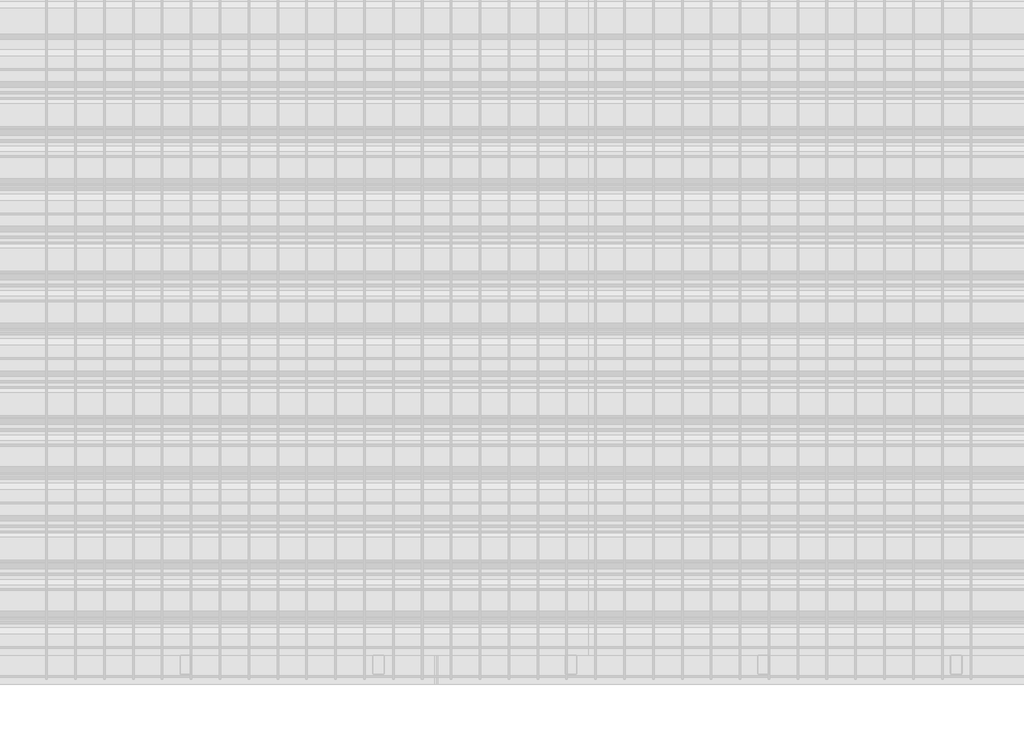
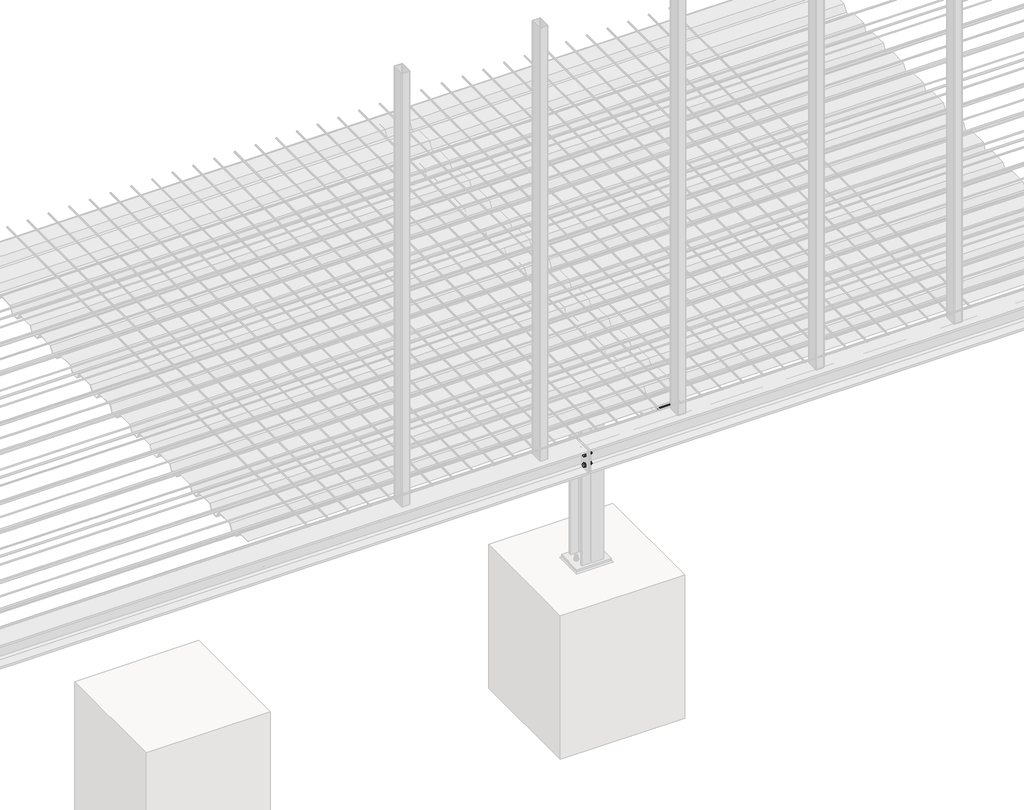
# One storey, part 12 of 36: 11 proxies.
"""IFC4 building model written with IfcOpenShell, lengths in millimetres."""

from ifc_helpers import new_model, si_unit, point, frame, frame_2d, origin, place, context, project, spatial, polyline, circle_curve, trimmed, segment, composite_curve, outline, extrude, element, save

model = new_model("IFC4")

# Units and contexts
model_context = context("Model", 3, world=origin())
ifc_project = project(units=[si_unit("LENGTHUNIT", "METRE", prefix="MILLI")], contexts=[model_context])

# Site, building, storey
site = spatial("IfcSite", under=ifc_project)
building = spatial("IfcBuilding", under=site)
storey = spatial("IfcBuildingStorey", under=building, Name="Základy", Elevation=-1200.0)

# Proxies
placement = place(None, origin())
element("IfcBuildingElementProxy", 1, Name="PLECH", ObjectType="PLECH", at=placement, inside=storey, context=model_context, shape_type="SweptSolid", body=[
    extrude(outline(polyline([(8940.0, 1200.0), (8940.0, 1320.0), (8950.0, 1320.0), (8950.0, 1200.0), (8940.0, 1200.0)])), frame((0.0, 0.0, -299.0), z_axis=(0.0, 0.0, 1.0), x_axis=(1.0, 0.0, 0.0)), (0.0, 0.0, 1.0), 98.0),
])
element("IfcBuildingElementProxy", 2, Name="PLECH", ObjectType="PLECH", at=placement, inside=storey, context=model_context, shape_type="SweptSolid", body=[
    extrude(outline(polyline([(9150.0, 1200.0), (9150.0, 1320.0), (9160.0, 1320.0), (9160.0, 1200.0), (9150.0, 1200.0)])), frame((0.0, 0.0, -299.0), z_axis=(0.0, 0.0, 1.0), x_axis=(1.0, 0.0, 0.0)), (0.0, 0.0, 1.0), 98.0),
])
element("IfcBuildingElementProxy", 3, Name="PLECH", ObjectType="PLECH", at=placement, inside=storey, context=model_context, shape_type="SweptSolid", body=[
    extrude(outline(polyline([(8950.0, 1200.0), (8950.0, 1320.0), (8960.0, 1320.0), (8960.0, 1200.0), (8950.0, 1200.0)])), frame((0.0, 0.0, -332.0), z_axis=(0.0, 0.0, 1.0), x_axis=(1.0, 0.0, 0.0)), (0.0, 0.0, 1.0), 164.0),
])
element("IfcBuildingElementProxy", 4, Name="PLECH", ObjectType="PLECH", at=placement, inside=storey, context=model_context, shape_type="SweptSolid", body=[
    extrude(outline(polyline([(9140.0, 1200.0), (9140.0, 1320.0), (9150.0, 1320.0), (9150.0, 1200.0), (9140.0, 1200.0)])), frame((0.0, 0.0, -332.0), z_axis=(0.0, 0.0, 1.0), x_axis=(1.0, 0.0, 0.0)), (0.0, 0.0, 1.0), 164.0),
])
element("IfcBuildingElementProxy", 5, Name="PLECH", ObjectType="PLECH", at=placement, inside=storey, context=model_context, shape_type="SweptSolid", body=[
    extrude(outline(composite_curve([segment(polyline([(-174.0, 9140.0), (-174.0, 9079.5)]), True, "CONTINUOUS"), segment(trimmed(circle_curve(frame_2d((-174.0, 9054.5)), 25.0), [point((-174.0, 9079.5))], [point((-199.0, 9054.5))], True, "CARTESIAN"), True, "CONTINUOUS"), segment(polyline([(-199.0, 9054.5), (-301.0, 9054.5)]), True, "CONTINUOUS"), segment(trimmed(circle_curve(frame_2d((-326.0, 9054.5)), 25.0), [point((-301.0, 9054.5))], [point((-326.0, 9079.5))], True, "CARTESIAN"), True, "CONTINUOUS"), segment(polyline([(-326.0, 9079.5), (-326.0, 9140.0), (-174.0, 9140.0)]), True, "CONTINUOUS")], self_intersect=False)), frame((0.0, 1256.0, 0.0), z_axis=(0.0, 1.0, 0.0), x_axis=(0.0, 0.0, 1.0)), (0.0, 0.0, 1.0), 8.0),
])
element("IfcBuildingElementProxy", 6, Name="PLECH", ObjectType="PLECH", at=placement, inside=storey, context=model_context, shape_type="SweptSolid", body=[
    extrude(outline(polyline([(8960.0, 210.0), (9140.0, 210.0), (9140.0, 200.0), (8960.0, 200.0), (8960.0, 210.0)])), frame((0.0, 0.0, -332.0), z_axis=(0.0, 0.0, 1.0), x_axis=(1.0, 0.0, 0.0)), (0.0, 0.0, 1.0), 164.0),
])
element("IfcBuildingElementProxy", 7, Name="PLECH", ObjectType="PLECH", at=placement, inside=storey, context=model_context, shape_type="SweptSolid", body=[
    extrude(outline(composite_curve([segment(polyline([(190.0, -174.0), (190.0, -326.0), (124.25, -326.0)]), True, "CONTINUOUS"), segment(trimmed(circle_curve(frame_2d((104.25, -326.0)), 20.0), [point((124.25, -326.0))], [point((104.25, -306.0))], True, "CARTESIAN"), True, "CONTINUOUS"), segment(polyline([(104.25, -306.0), (104.25, -194.0)]), True, "CONTINUOUS"), segment(trimmed(circle_curve(frame_2d((104.25, -174.0)), 20.0), [point((104.25, -194.0))], [point((124.25, -174.0))], True, "CARTESIAN"), True, "CONTINUOUS"), segment(polyline([(124.25, -174.0), (190.0, -174.0)]), True, "CONTINUOUS")], self_intersect=False)), frame((9046.0, 0.0, 0.0), z_axis=(1.0, 0.0, 0.0), x_axis=(0.0, 1.0, 0.0)), (0.0, 0.0, 1.0), 8.0),
])
element("IfcBuildingElementProxy", 8, Name="PLECH", ObjectType="PLECH", at=placement, inside=storey, context=model_context, shape_type="SweptSolid", body=[
    extrude(outline(polyline([(8960.0, 200.0), (9140.0, 200.0), (9140.0, 190.0), (8960.0, 190.0), (8960.0, 200.0)])), frame((0.0, 0.0, -332.0), z_axis=(0.0, 0.0, 1.0), x_axis=(1.0, 0.0, 0.0)), (0.0, 0.0, 1.0), 164.0),
])
element("IfcBuildingElementProxy", 9, Name="Bolt assembly", ObjectType="Bolt assembly", at=placement, inside=storey, context=model_context, shape_type="SweptSolid", body=[
    extrude(outline(composite_curve([segment(trimmed(circle_curve(frame_2d((1230.0, -225.0)), 6.5), [point((1230.0, -231.5))], [point((1230.0, -218.5))], False, "CARTESIAN"), True, "CONTINUOUS"), segment(trimmed(circle_curve(frame_2d((1230.0, -225.0)), 6.5), [point((1230.0, -218.5))], [point((1230.0, -231.5))], False, "CARTESIAN"), True, "CONTINUOUS")], self_intersect=False)), frame((8949.9, 0.0, 0.0), z_axis=(1.0, 0.0, 0.0), x_axis=(0.0, 1.0, 0.0)), (0.0, 0.0, 1.0), 10.0),
    extrude(outline(polyline([(1230.0, -235.3923048), (1221.0, -230.1961524), (1221.0, -219.8038476), (1230.0, -214.6076952), (1239.0, -219.8038476), (1239.0, -230.1961524), (1230.0, -235.3923048)])), frame((8962.5, 0.0, 0.0), z_axis=(1.0, 0.0, 0.0), x_axis=(0.0, 1.0, 0.0)), (0.0, 0.0, 1.0), 7.5),
    extrude(outline(composite_curve([segment(trimmed(circle_curve(frame_2d((1230.0, -225.0)), 6.0), [point((1230.0, -231.0))], [point((1230.0, -219.0))], False, "CARTESIAN"), True, "CONTINUOUS"), segment(trimmed(circle_curve(frame_2d((1230.0, -225.0)), 6.0), [point((1230.0, -219.0))], [point((1230.0, -231.0))], False, "CARTESIAN"), True, "CONTINUOUS")], self_intersect=False)), frame((8922.5, 0.0, 0.0), z_axis=(1.0, 0.0, 0.0), x_axis=(0.0, 1.0, 0.0)), (0.0, 0.0, 1.0), 40.0),
    extrude(outline(composite_curve([segment(trimmed(circle_curve(frame_2d((1230.0, -225.0)), 12.0), [point((1230.0, -237.0))], [point((1230.0, -213.0))], False, "CARTESIAN"), True, "CONTINUOUS"), segment(trimmed(circle_curve(frame_2d((1230.0, -225.0)), 12.0), [point((1230.0, -213.0))], [point((1230.0, -237.0))], False, "CARTESIAN"), True, "CONTINUOUS")], self_intersect=False)), frame((8960.0, 0.0, 0.0), z_axis=(1.0, 0.0, 0.0), x_axis=(0.0, 1.0, 0.0)), (0.0, 0.0, 1.0), 2.5),
    extrude(outline(composite_curve([segment(trimmed(circle_curve(frame_2d((1230.0, -225.0)), 12.0), [point((1230.0, -237.0))], [point((1230.0, -213.0))], False, "CARTESIAN"), True, "CONTINUOUS"), segment(trimmed(circle_curve(frame_2d((1230.0, -225.0)), 12.0), [point((1230.0, -213.0))], [point((1230.0, -237.0))], False, "CARTESIAN"), True, "CONTINUOUS")], self_intersect=False)), frame((8937.5, 0.0, 0.0), z_axis=(1.0, 0.0, 0.0), x_axis=(0.0, 1.0, 0.0)), (0.0, 0.0, 1.0), 2.5),
    extrude(outline(polyline([(1230.0, -235.9696551), (1220.5, -230.4848276), (1220.5, -219.5151724), (1230.0, -214.0303449), (1239.5, -219.5151724), (1239.5, -230.4848276), (1230.0, -235.9696551)])), frame((8927.5, 0.0, 0.0), z_axis=(1.0, 0.0, 0.0), x_axis=(0.0, 1.0, 0.0)), (0.0, 0.0, 1.0), 10.0),
    extrude(outline(composite_curve([segment(trimmed(circle_curve(frame_2d((1230.0, -225.0)), 6.5), [point((1230.0, -231.5))], [point((1230.0, -218.5))], False, "CARTESIAN"), True, "CONTINUOUS"), segment(trimmed(circle_curve(frame_2d((1230.0, -225.0)), 6.5), [point((1230.0, -218.5))], [point((1230.0, -231.5))], False, "CARTESIAN"), True, "CONTINUOUS")], self_intersect=False)), frame((8940.0, 0.0, 0.0), z_axis=(1.0, 0.0, 0.0), x_axis=(0.0, 1.0, 0.0)), (0.0, 0.0, 1.0), 10.1),
    extrude(outline(composite_curve([segment(trimmed(circle_curve(frame_2d((1230.0, -275.0)), 6.5), [point((1230.0, -281.5))], [point((1230.0, -268.5))], False, "CARTESIAN"), True, "CONTINUOUS"), segment(trimmed(circle_curve(frame_2d((1230.0, -275.0)), 6.5), [point((1230.0, -268.5))], [point((1230.0, -281.5))], False, "CARTESIAN"), True, "CONTINUOUS")], self_intersect=False)), frame((8949.9, 0.0, 0.0), z_axis=(1.0, 0.0, 0.0), x_axis=(0.0, 1.0, 0.0)), (0.0, 0.0, 1.0), 10.0),
    extrude(outline(polyline([(1230.0, -285.3923048), (1221.0, -280.1961524), (1221.0, -269.8038476), (1230.0, -264.6076952), (1239.0, -269.8038476), (1239.0, -280.1961524), (1230.0, -285.3923048)])), frame((8962.5, 0.0, 0.0), z_axis=(1.0, 0.0, 0.0), x_axis=(0.0, 1.0, 0.0)), (0.0, 0.0, 1.0), 7.5),
    extrude(outline(composite_curve([segment(trimmed(circle_curve(frame_2d((1230.0, -275.0)), 6.0), [point((1230.0, -281.0))], [point((1230.0, -269.0))], False, "CARTESIAN"), True, "CONTINUOUS"), segment(trimmed(circle_curve(frame_2d((1230.0, -275.0)), 6.0), [point((1230.0, -269.0))], [point((1230.0, -281.0))], False, "CARTESIAN"), True, "CONTINUOUS")], self_intersect=False)), frame((8922.5, 0.0, 0.0), z_axis=(1.0, 0.0, 0.0), x_axis=(0.0, 1.0, 0.0)), (0.0, 0.0, 1.0), 40.0),
    extrude(outline(composite_curve([segment(trimmed(circle_curve(frame_2d((1230.0, -275.0)), 12.0), [point((1230.0, -287.0))], [point((1230.0, -263.0))], False, "CARTESIAN"), True, "CONTINUOUS"), segment(trimmed(circle_curve(frame_2d((1230.0, -275.0)), 12.0), [point((1230.0, -263.0))], [point((1230.0, -287.0))], False, "CARTESIAN"), True, "CONTINUOUS")], self_intersect=False)), frame((8960.0, 0.0, 0.0), z_axis=(1.0, 0.0, 0.0), x_axis=(0.0, 1.0, 0.0)), (0.0, 0.0, 1.0), 2.5),
    extrude(outline(composite_curve([segment(trimmed(circle_curve(frame_2d((1230.0, -275.0)), 12.0), [point((1230.0, -287.0))], [point((1230.0, -263.0))], False, "CARTESIAN"), True, "CONTINUOUS"), segment(trimmed(circle_curve(frame_2d((1230.0, -275.0)), 12.0), [point((1230.0, -263.0))], [point((1230.0, -287.0))], False, "CARTESIAN"), True, "CONTINUOUS")], self_intersect=False)), frame((8937.5, 0.0, 0.0), z_axis=(1.0, 0.0, 0.0), x_axis=(0.0, 1.0, 0.0)), (0.0, 0.0, 1.0), 2.5),
    extrude(outline(polyline([(1230.0, -285.9696551), (1220.5, -280.4848276), (1220.5, -269.5151724), (1230.0, -264.0303449), (1239.5, -269.5151724), (1239.5, -280.4848276), (1230.0, -285.9696551)])), frame((8927.5, 0.0, 0.0), z_axis=(1.0, 0.0, 0.0), x_axis=(0.0, 1.0, 0.0)), (0.0, 0.0, 1.0), 10.0),
    extrude(outline(composite_curve([segment(trimmed(circle_curve(frame_2d((1230.0, -275.0)), 6.5), [point((1230.0, -281.5))], [point((1230.0, -268.5))], False, "CARTESIAN"), True, "CONTINUOUS"), segment(trimmed(circle_curve(frame_2d((1230.0, -275.0)), 6.5), [point((1230.0, -268.5))], [point((1230.0, -281.5))], False, "CARTESIAN"), True, "CONTINUOUS")], self_intersect=False)), frame((8940.0, 0.0, 0.0), z_axis=(1.0, 0.0, 0.0), x_axis=(0.0, 1.0, 0.0)), (0.0, 0.0, 1.0), 10.1),
    extrude(outline(composite_curve([segment(trimmed(circle_curve(frame_2d((1290.0, -225.0)), 6.5), [point((1290.0, -231.5))], [point((1290.0, -218.5))], False, "CARTESIAN"), True, "CONTINUOUS"), segment(trimmed(circle_curve(frame_2d((1290.0, -225.0)), 6.5), [point((1290.0, -218.5))], [point((1290.0, -231.5))], False, "CARTESIAN"), True, "CONTINUOUS")], self_intersect=False)), frame((8949.9, 0.0, 0.0), z_axis=(1.0, 0.0, 0.0), x_axis=(0.0, 1.0, 0.0)), (0.0, 0.0, 1.0), 10.0),
    extrude(outline(polyline([(1290.0, -235.3923048), (1281.0, -230.1961524), (1281.0, -219.8038476), (1290.0, -214.6076952), (1299.0, -219.8038476), (1299.0, -230.1961524), (1290.0, -235.3923048)])), frame((8962.5, 0.0, 0.0), z_axis=(1.0, 0.0, 0.0), x_axis=(0.0, 1.0, 0.0)), (0.0, 0.0, 1.0), 7.5),
    extrude(outline(composite_curve([segment(trimmed(circle_curve(frame_2d((1290.0, -225.0)), 6.0), [point((1290.0, -231.0))], [point((1290.0, -219.0))], False, "CARTESIAN"), True, "CONTINUOUS"), segment(trimmed(circle_curve(frame_2d((1290.0, -225.0)), 6.0), [point((1290.0, -219.0))], [point((1290.0, -231.0))], False, "CARTESIAN"), True, "CONTINUOUS")], self_intersect=False)), frame((8922.5, 0.0, 0.0), z_axis=(1.0, 0.0, 0.0), x_axis=(0.0, 1.0, 0.0)), (0.0, 0.0, 1.0), 40.0),
    extrude(outline(composite_curve([segment(trimmed(circle_curve(frame_2d((1290.0, -225.0)), 12.0), [point((1290.0, -237.0))], [point((1290.0, -213.0))], False, "CARTESIAN"), True, "CONTINUOUS"), segment(trimmed(circle_curve(frame_2d((1290.0, -225.0)), 12.0), [point((1290.0, -213.0))], [point((1290.0, -237.0))], False, "CARTESIAN"), True, "CONTINUOUS")], self_intersect=False)), frame((8960.0, 0.0, 0.0), z_axis=(1.0, 0.0, 0.0), x_axis=(0.0, 1.0, 0.0)), (0.0, 0.0, 1.0), 2.5),
    extrude(outline(composite_curve([segment(trimmed(circle_curve(frame_2d((1290.0, -225.0)), 12.0), [point((1290.0, -237.0))], [point((1290.0, -213.0))], False, "CARTESIAN"), True, "CONTINUOUS"), segment(trimmed(circle_curve(frame_2d((1290.0, -225.0)), 12.0), [point((1290.0, -213.0))], [point((1290.0, -237.0))], False, "CARTESIAN"), True, "CONTINUOUS")], self_intersect=False)), frame((8937.5, 0.0, 0.0), z_axis=(1.0, 0.0, 0.0), x_axis=(0.0, 1.0, 0.0)), (0.0, 0.0, 1.0), 2.5),
    extrude(outline(polyline([(1290.0, -235.9696551), (1280.5, -230.4848276), (1280.5, -219.5151724), (1290.0, -214.0303449), (1299.5, -219.5151724), (1299.5, -230.4848276), (1290.0, -235.9696551)])), frame((8927.5, 0.0, 0.0), z_axis=(1.0, 0.0, 0.0), x_axis=(0.0, 1.0, 0.0)), (0.0, 0.0, 1.0), 10.0),
    extrude(outline(composite_curve([segment(trimmed(circle_curve(frame_2d((1290.0, -225.0)), 6.5), [point((1290.0, -231.5))], [point((1290.0, -218.5))], False, "CARTESIAN"), True, "CONTINUOUS"), segment(trimmed(circle_curve(frame_2d((1290.0, -225.0)), 6.5), [point((1290.0, -218.5))], [point((1290.0, -231.5))], False, "CARTESIAN"), True, "CONTINUOUS")], self_intersect=False)), frame((8940.0, 0.0, 0.0), z_axis=(1.0, 0.0, 0.0), x_axis=(0.0, 1.0, 0.0)), (0.0, 0.0, 1.0), 10.1),
    extrude(outline(composite_curve([segment(trimmed(circle_curve(frame_2d((1290.0, -275.0)), 6.5), [point((1290.0, -281.5))], [point((1290.0, -268.5))], False, "CARTESIAN"), True, "CONTINUOUS"), segment(trimmed(circle_curve(frame_2d((1290.0, -275.0)), 6.5), [point((1290.0, -268.5))], [point((1290.0, -281.5))], False, "CARTESIAN"), True, "CONTINUOUS")], self_intersect=False)), frame((8949.9, 0.0, 0.0), z_axis=(1.0, 0.0, 0.0), x_axis=(0.0, 1.0, 0.0)), (0.0, 0.0, 1.0), 10.0),
    extrude(outline(polyline([(1290.0, -285.3923048), (1281.0, -280.1961524), (1281.0, -269.8038476), (1290.0, -264.6076952), (1299.0, -269.8038476), (1299.0, -280.1961524), (1290.0, -285.3923048)])), frame((8962.5, 0.0, 0.0), z_axis=(1.0, 0.0, 0.0), x_axis=(0.0, 1.0, 0.0)), (0.0, 0.0, 1.0), 7.5),
    extrude(outline(composite_curve([segment(trimmed(circle_curve(frame_2d((1290.0, -275.0)), 6.0), [point((1290.0, -281.0))], [point((1290.0, -269.0))], False, "CARTESIAN"), True, "CONTINUOUS"), segment(trimmed(circle_curve(frame_2d((1290.0, -275.0)), 6.0), [point((1290.0, -269.0))], [point((1290.0, -281.0))], False, "CARTESIAN"), True, "CONTINUOUS")], self_intersect=False)), frame((8922.5, 0.0, 0.0), z_axis=(1.0, 0.0, 0.0), x_axis=(0.0, 1.0, 0.0)), (0.0, 0.0, 1.0), 40.0),
    extrude(outline(composite_curve([segment(trimmed(circle_curve(frame_2d((1290.0, -275.0)), 12.0), [point((1290.0, -287.0))], [point((1290.0, -263.0))], False, "CARTESIAN"), True, "CONTINUOUS"), segment(trimmed(circle_curve(frame_2d((1290.0, -275.0)), 12.0), [point((1290.0, -263.0))], [point((1290.0, -287.0))], False, "CARTESIAN"), True, "CONTINUOUS")], self_intersect=False)), frame((8960.0, 0.0, 0.0), z_axis=(1.0, 0.0, 0.0), x_axis=(0.0, 1.0, 0.0)), (0.0, 0.0, 1.0), 2.5),
    extrude(outline(composite_curve([segment(trimmed(circle_curve(frame_2d((1290.0, -275.0)), 12.0), [point((1290.0, -287.0))], [point((1290.0, -263.0))], False, "CARTESIAN"), True, "CONTINUOUS"), segment(trimmed(circle_curve(frame_2d((1290.0, -275.0)), 12.0), [point((1290.0, -263.0))], [point((1290.0, -287.0))], False, "CARTESIAN"), True, "CONTINUOUS")], self_intersect=False)), frame((8937.5, 0.0, 0.0), z_axis=(1.0, 0.0, 0.0), x_axis=(0.0, 1.0, 0.0)), (0.0, 0.0, 1.0), 2.5),
    extrude(outline(polyline([(1290.0, -285.9696551), (1280.5, -280.4848276), (1280.5, -269.5151724), (1290.0, -264.0303449), (1299.5, -269.5151724), (1299.5, -280.4848276), (1290.0, -285.9696551)])), frame((8927.5, 0.0, 0.0), z_axis=(1.0, 0.0, 0.0), x_axis=(0.0, 1.0, 0.0)), (0.0, 0.0, 1.0), 10.0),
    extrude(outline(composite_curve([segment(trimmed(circle_curve(frame_2d((1290.0, -275.0)), 6.5), [point((1290.0, -281.5))], [point((1290.0, -268.5))], False, "CARTESIAN"), True, "CONTINUOUS"), segment(trimmed(circle_curve(frame_2d((1290.0, -275.0)), 6.5), [point((1290.0, -268.5))], [point((1290.0, -281.5))], False, "CARTESIAN"), True, "CONTINUOUS")], self_intersect=False)), frame((8940.0, 0.0, 0.0), z_axis=(1.0, 0.0, 0.0), x_axis=(0.0, 1.0, 0.0)), (0.0, 0.0, 1.0), 10.1),
])
element("IfcBuildingElementProxy", 10, Name="Bolt assembly", ObjectType="Bolt assembly", at=placement, inside=storey, context=model_context, shape_type="SweptSolid", body=[
    extrude(outline(composite_curve([segment(trimmed(circle_curve(frame_2d((-290.0, 9005.0)), 9.0), [point((-290.0, 9014.0))], [point((-290.0, 8996.0))], False, "CARTESIAN"), True, "CONTINUOUS"), segment(trimmed(circle_curve(frame_2d((-290.0, 9005.0)), 9.0), [point((-290.0, 8996.0))], [point((-290.0, 9014.0))], False, "CARTESIAN"), True, "CONTINUOUS")], self_intersect=False)), frame((0.0, 190.1, 0.0), z_axis=(0.0, 1.0, 0.0), x_axis=(0.0, 0.0, 1.0)), (0.0, 0.0, 1.0), 10.0),
    extrude(outline(polyline([(-290.0, 9018.8564065), (-278.0, 9011.9282032), (-278.0, 8998.0717968), (-290.0, 8991.1435935), (-302.0, 8998.0717968), (-302.0, 9011.9282032), (-290.0, 9018.8564065)])), frame((0.0, 177.0, 0.0), z_axis=(0.0, 1.0, 0.0), x_axis=(0.0, 0.0, 1.0)), (0.0, 0.0, 1.0), 10.0),
    extrude(outline(composite_curve([segment(trimmed(circle_curve(frame_2d((-290.0, 9005.0)), 8.0), [point((-290.0, 9013.0))], [point((-290.0, 8997.0))], False, "CARTESIAN"), True, "CONTINUOUS"), segment(trimmed(circle_curve(frame_2d((-290.0, 9005.0)), 8.0), [point((-290.0, 8997.0))], [point((-290.0, 9013.0))], False, "CARTESIAN"), True, "CONTINUOUS")], self_intersect=False)), frame((0.0, 187.0, 0.0), z_axis=(0.0, 1.0, 0.0), x_axis=(0.0, 0.0, 1.0)), (0.0, 0.0, 1.0), 50.0),
    extrude(outline(composite_curve([segment(trimmed(circle_curve(frame_2d((-290.0, 9005.0)), 15.0), [point((-290.0, 9020.0))], [point((-290.0, 8990.0))], False, "CARTESIAN"), True, "CONTINUOUS"), segment(trimmed(circle_curve(frame_2d((-290.0, 9005.0)), 15.0), [point((-290.0, 8990.0))], [point((-290.0, 9020.0))], False, "CARTESIAN"), True, "CONTINUOUS")], self_intersect=False)), frame((0.0, 187.0, 0.0), z_axis=(0.0, 1.0, 0.0), x_axis=(0.0, 0.0, 1.0)), (0.0, 0.0, 1.0), 3.0),
    extrude(outline(composite_curve([segment(trimmed(circle_curve(frame_2d((-290.0, 9005.0)), 15.0), [point((-290.0, 9020.0))], [point((-290.0, 8990.0))], False, "CARTESIAN"), True, "CONTINUOUS"), segment(trimmed(circle_curve(frame_2d((-290.0, 9005.0)), 15.0), [point((-290.0, 8990.0))], [point((-290.0, 9020.0))], False, "CARTESIAN"), True, "CONTINUOUS")], self_intersect=False)), frame((0.0, 210.0, 0.0), z_axis=(0.0, 1.0, 0.0), x_axis=(0.0, 0.0, 1.0)), (0.0, 0.0, 1.0), 3.0),
    extrude(outline(polyline([(-290.0, 9020.4441197), (-276.625, 9012.7220599), (-276.625, 8997.2779401), (-290.0, 8989.5558803), (-303.375, 8997.2779401), (-303.375, 9012.7220599), (-290.0, 9020.4441197)])), frame((0.0, 213.0, 0.0), z_axis=(0.0, 1.0, 0.0), x_axis=(0.0, 0.0, 1.0)), (0.0, 0.0, 1.0), 13.0),
    extrude(outline(composite_curve([segment(trimmed(circle_curve(frame_2d((-290.0, 9005.0)), 9.0), [point((-290.0, 9014.0))], [point((-290.0, 8996.0))], False, "CARTESIAN"), True, "CONTINUOUS"), segment(trimmed(circle_curve(frame_2d((-290.0, 9005.0)), 9.0), [point((-290.0, 8996.0))], [point((-290.0, 9014.0))], False, "CARTESIAN"), True, "CONTINUOUS")], self_intersect=False)), frame((0.0, 199.9, 0.0), z_axis=(0.0, 1.0, 0.0), x_axis=(0.0, 0.0, 1.0)), (0.0, 0.0, 1.0), 10.1),
    extrude(outline(composite_curve([segment(trimmed(circle_curve(frame_2d((-290.0, 9095.0)), 9.0), [point((-290.0, 9104.0))], [point((-290.0, 9086.0))], False, "CARTESIAN"), True, "CONTINUOUS"), segment(trimmed(circle_curve(frame_2d((-290.0, 9095.0)), 9.0), [point((-290.0, 9086.0))], [point((-290.0, 9104.0))], False, "CARTESIAN"), True, "CONTINUOUS")], self_intersect=False)), frame((0.0, 190.1, 0.0), z_axis=(0.0, 1.0, 0.0), x_axis=(0.0, 0.0, 1.0)), (0.0, 0.0, 1.0), 10.0),
    extrude(outline(polyline([(-290.0, 9108.8564065), (-278.0, 9101.9282032), (-278.0, 9088.0717968), (-290.0, 9081.1435935), (-302.0, 9088.0717968), (-302.0, 9101.9282032), (-290.0, 9108.8564065)])), frame((0.0, 177.0, 0.0), z_axis=(0.0, 1.0, 0.0), x_axis=(0.0, 0.0, 1.0)), (0.0, 0.0, 1.0), 10.0),
    extrude(outline(composite_curve([segment(trimmed(circle_curve(frame_2d((-290.0, 9095.0)), 8.0), [point((-290.0, 9103.0))], [point((-290.0, 9087.0))], False, "CARTESIAN"), True, "CONTINUOUS"), segment(trimmed(circle_curve(frame_2d((-290.0, 9095.0)), 8.0), [point((-290.0, 9087.0))], [point((-290.0, 9103.0))], False, "CARTESIAN"), True, "CONTINUOUS")], self_intersect=False)), frame((0.0, 187.0, 0.0), z_axis=(0.0, 1.0, 0.0), x_axis=(0.0, 0.0, 1.0)), (0.0, 0.0, 1.0), 50.0),
    extrude(outline(composite_curve([segment(trimmed(circle_curve(frame_2d((-290.0, 9095.0)), 15.0), [point((-290.0, 9110.0))], [point((-290.0, 9080.0))], False, "CARTESIAN"), True, "CONTINUOUS"), segment(trimmed(circle_curve(frame_2d((-290.0, 9095.0)), 15.0), [point((-290.0, 9080.0))], [point((-290.0, 9110.0))], False, "CARTESIAN"), True, "CONTINUOUS")], self_intersect=False)), frame((0.0, 187.0, 0.0), z_axis=(0.0, 1.0, 0.0), x_axis=(0.0, 0.0, 1.0)), (0.0, 0.0, 1.0), 3.0),
    extrude(outline(composite_curve([segment(trimmed(circle_curve(frame_2d((-290.0, 9095.0)), 15.0), [point((-290.0, 9110.0))], [point((-290.0, 9080.0))], False, "CARTESIAN"), True, "CONTINUOUS"), segment(trimmed(circle_curve(frame_2d((-290.0, 9095.0)), 15.0), [point((-290.0, 9080.0))], [point((-290.0, 9110.0))], False, "CARTESIAN"), True, "CONTINUOUS")], self_intersect=False)), frame((0.0, 210.0, 0.0), z_axis=(0.0, 1.0, 0.0), x_axis=(0.0, 0.0, 1.0)), (0.0, 0.0, 1.0), 3.0),
    extrude(outline(polyline([(-290.0, 9110.4441197), (-276.625, 9102.7220599), (-276.625, 9087.2779401), (-290.0, 9079.5558803), (-303.375, 9087.2779401), (-303.375, 9102.7220599), (-290.0, 9110.4441197)])), frame((0.0, 213.0, 0.0), z_axis=(0.0, 1.0, 0.0), x_axis=(0.0, 0.0, 1.0)), (0.0, 0.0, 1.0), 13.0),
    extrude(outline(composite_curve([segment(trimmed(circle_curve(frame_2d((-290.0, 9095.0)), 9.0), [point((-290.0, 9104.0))], [point((-290.0, 9086.0))], False, "CARTESIAN"), True, "CONTINUOUS"), segment(trimmed(circle_curve(frame_2d((-290.0, 9095.0)), 9.0), [point((-290.0, 9086.0))], [point((-290.0, 9104.0))], False, "CARTESIAN"), True, "CONTINUOUS")], self_intersect=False)), frame((0.0, 199.9, 0.0), z_axis=(0.0, 1.0, 0.0), x_axis=(0.0, 0.0, 1.0)), (0.0, 0.0, 1.0), 10.1),
    extrude(outline(composite_curve([segment(trimmed(circle_curve(frame_2d((-210.0, 9005.0)), 9.0), [point((-210.0, 9014.0))], [point((-210.0, 8996.0))], False, "CARTESIAN"), True, "CONTINUOUS"), segment(trimmed(circle_curve(frame_2d((-210.0, 9005.0)), 9.0), [point((-210.0, 8996.0))], [point((-210.0, 9014.0))], False, "CARTESIAN"), True, "CONTINUOUS")], self_intersect=False)), frame((0.0, 190.1, 0.0), z_axis=(0.0, 1.0, 0.0), x_axis=(0.0, 0.0, 1.0)), (0.0, 0.0, 1.0), 10.0),
    extrude(outline(polyline([(-210.0, 9018.8564065), (-198.0, 9011.9282032), (-198.0, 8998.0717968), (-210.0, 8991.1435935), (-222.0, 8998.0717968), (-222.0, 9011.9282032), (-210.0, 9018.8564065)])), frame((0.0, 177.0, 0.0), z_axis=(0.0, 1.0, 0.0), x_axis=(0.0, 0.0, 1.0)), (0.0, 0.0, 1.0), 10.0),
    extrude(outline(composite_curve([segment(trimmed(circle_curve(frame_2d((-210.0, 9005.0)), 8.0), [point((-210.0, 9013.0))], [point((-210.0, 8997.0))], False, "CARTESIAN"), True, "CONTINUOUS"), segment(trimmed(circle_curve(frame_2d((-210.0, 9005.0)), 8.0), [point((-210.0, 8997.0))], [point((-210.0, 9013.0))], False, "CARTESIAN"), True, "CONTINUOUS")], self_intersect=False)), frame((0.0, 187.0, 0.0), z_axis=(0.0, 1.0, 0.0), x_axis=(0.0, 0.0, 1.0)), (0.0, 0.0, 1.0), 50.0),
    extrude(outline(composite_curve([segment(trimmed(circle_curve(frame_2d((-210.0, 9005.0)), 15.0), [point((-210.0, 9020.0))], [point((-210.0, 8990.0))], False, "CARTESIAN"), True, "CONTINUOUS"), segment(trimmed(circle_curve(frame_2d((-210.0, 9005.0)), 15.0), [point((-210.0, 8990.0))], [point((-210.0, 9020.0))], False, "CARTESIAN"), True, "CONTINUOUS")], self_intersect=False)), frame((0.0, 187.0, 0.0), z_axis=(0.0, 1.0, 0.0), x_axis=(0.0, 0.0, 1.0)), (0.0, 0.0, 1.0), 3.0),
    extrude(outline(composite_curve([segment(trimmed(circle_curve(frame_2d((-210.0, 9005.0)), 15.0), [point((-210.0, 9020.0))], [point((-210.0, 8990.0))], False, "CARTESIAN"), True, "CONTINUOUS"), segment(trimmed(circle_curve(frame_2d((-210.0, 9005.0)), 15.0), [point((-210.0, 8990.0))], [point((-210.0, 9020.0))], False, "CARTESIAN"), True, "CONTINUOUS")], self_intersect=False)), frame((0.0, 210.0, 0.0), z_axis=(0.0, 1.0, 0.0), x_axis=(0.0, 0.0, 1.0)), (0.0, 0.0, 1.0), 3.0),
    extrude(outline(polyline([(-210.0, 9020.4441197), (-196.625, 9012.7220599), (-196.625, 8997.2779401), (-210.0, 8989.5558803), (-223.375, 8997.2779401), (-223.375, 9012.7220599), (-210.0, 9020.4441197)])), frame((0.0, 213.0, 0.0), z_axis=(0.0, 1.0, 0.0), x_axis=(0.0, 0.0, 1.0)), (0.0, 0.0, 1.0), 13.0),
    extrude(outline(composite_curve([segment(trimmed(circle_curve(frame_2d((-210.0, 9005.0)), 9.0), [point((-210.0, 9014.0))], [point((-210.0, 8996.0))], False, "CARTESIAN"), True, "CONTINUOUS"), segment(trimmed(circle_curve(frame_2d((-210.0, 9005.0)), 9.0), [point((-210.0, 8996.0))], [point((-210.0, 9014.0))], False, "CARTESIAN"), True, "CONTINUOUS")], self_intersect=False)), frame((0.0, 199.9, 0.0), z_axis=(0.0, 1.0, 0.0), x_axis=(0.0, 0.0, 1.0)), (0.0, 0.0, 1.0), 10.1),
    extrude(outline(composite_curve([segment(trimmed(circle_curve(frame_2d((-210.0, 9095.0)), 9.0), [point((-210.0, 9104.0))], [point((-210.0, 9086.0))], False, "CARTESIAN"), True, "CONTINUOUS"), segment(trimmed(circle_curve(frame_2d((-210.0, 9095.0)), 9.0), [point((-210.0, 9086.0))], [point((-210.0, 9104.0))], False, "CARTESIAN"), True, "CONTINUOUS")], self_intersect=False)), frame((0.0, 190.1, 0.0), z_axis=(0.0, 1.0, 0.0), x_axis=(0.0, 0.0, 1.0)), (0.0, 0.0, 1.0), 10.0),
    extrude(outline(polyline([(-210.0, 9108.8564065), (-198.0, 9101.9282032), (-198.0, 9088.0717968), (-210.0, 9081.1435935), (-222.0, 9088.0717968), (-222.0, 9101.9282032), (-210.0, 9108.8564065)])), frame((0.0, 177.0, 0.0), z_axis=(0.0, 1.0, 0.0), x_axis=(0.0, 0.0, 1.0)), (0.0, 0.0, 1.0), 10.0),
    extrude(outline(composite_curve([segment(trimmed(circle_curve(frame_2d((-210.0, 9095.0)), 8.0), [point((-210.0, 9103.0))], [point((-210.0, 9087.0))], False, "CARTESIAN"), True, "CONTINUOUS"), segment(trimmed(circle_curve(frame_2d((-210.0, 9095.0)), 8.0), [point((-210.0, 9087.0))], [point((-210.0, 9103.0))], False, "CARTESIAN"), True, "CONTINUOUS")], self_intersect=False)), frame((0.0, 187.0, 0.0), z_axis=(0.0, 1.0, 0.0), x_axis=(0.0, 0.0, 1.0)), (0.0, 0.0, 1.0), 50.0),
    extrude(outline(composite_curve([segment(trimmed(circle_curve(frame_2d((-210.0, 9095.0)), 15.0), [point((-210.0, 9110.0))], [point((-210.0, 9080.0))], False, "CARTESIAN"), True, "CONTINUOUS"), segment(trimmed(circle_curve(frame_2d((-210.0, 9095.0)), 15.0), [point((-210.0, 9080.0))], [point((-210.0, 9110.0))], False, "CARTESIAN"), True, "CONTINUOUS")], self_intersect=False)), frame((0.0, 187.0, 0.0), z_axis=(0.0, 1.0, 0.0), x_axis=(0.0, 0.0, 1.0)), (0.0, 0.0, 1.0), 3.0),
    extrude(outline(composite_curve([segment(trimmed(circle_curve(frame_2d((-210.0, 9095.0)), 15.0), [point((-210.0, 9110.0))], [point((-210.0, 9080.0))], False, "CARTESIAN"), True, "CONTINUOUS"), segment(trimmed(circle_curve(frame_2d((-210.0, 9095.0)), 15.0), [point((-210.0, 9080.0))], [point((-210.0, 9110.0))], False, "CARTESIAN"), True, "CONTINUOUS")], self_intersect=False)), frame((0.0, 210.0, 0.0), z_axis=(0.0, 1.0, 0.0), x_axis=(0.0, 0.0, 1.0)), (0.0, 0.0, 1.0), 3.0),
    extrude(outline(polyline([(-210.0, 9110.4441197), (-196.625, 9102.7220599), (-196.625, 9087.2779401), (-210.0, 9079.5558803), (-223.375, 9087.2779401), (-223.375, 9102.7220599), (-210.0, 9110.4441197)])), frame((0.0, 213.0, 0.0), z_axis=(0.0, 1.0, 0.0), x_axis=(0.0, 0.0, 1.0)), (0.0, 0.0, 1.0), 13.0),
    extrude(outline(composite_curve([segment(trimmed(circle_curve(frame_2d((-210.0, 9095.0)), 9.0), [point((-210.0, 9104.0))], [point((-210.0, 9086.0))], False, "CARTESIAN"), True, "CONTINUOUS"), segment(trimmed(circle_curve(frame_2d((-210.0, 9095.0)), 9.0), [point((-210.0, 9086.0))], [point((-210.0, 9104.0))], False, "CARTESIAN"), True, "CONTINUOUS")], self_intersect=False)), frame((0.0, 199.9, 0.0), z_axis=(0.0, 1.0, 0.0), x_axis=(0.0, 0.0, 1.0)), (0.0, 0.0, 1.0), 10.1),
])
element("IfcBuildingElementProxy", 11, Name="Bolt assembly", ObjectType="Bolt assembly", at=placement, inside=storey, context=model_context, shape_type="SweptSolid", body=[
    extrude(outline(composite_curve([segment(trimmed(circle_curve(frame_2d((150.0, -290.0)), 9.0), [point((141.0, -290.0))], [point((159.0, -290.0))], False, "CARTESIAN"), True, "CONTINUOUS"), segment(trimmed(circle_curve(frame_2d((150.0, -290.0)), 9.0), [point((159.0, -290.0))], [point((141.0, -290.0))], False, "CARTESIAN"), True, "CONTINUOUS")], self_intersect=False)), frame((8349.9, 0.0, 0.0), z_axis=(1.0, 0.0, 0.0), x_axis=(0.0, 1.0, 0.0)), (0.0, 0.0, 1.0), 10.1),
    extrude(outline(polyline([(136.1435935, -290.0), (143.0717968, -278.0), (156.9282032, -278.0), (163.8564065, -290.0), (156.9282032, -302.0), (143.0717968, -302.0), (136.1435935, -290.0)])), frame((8327.0, 0.0, 0.0), z_axis=(1.0, 0.0, 0.0), x_axis=(0.0, 1.0, 0.0)), (0.0, 0.0, 1.0), 10.0),
    extrude(outline(composite_curve([segment(trimmed(circle_curve(frame_2d((150.0, -290.0)), 8.0), [point((142.0, -290.0))], [point((158.0, -290.0))], False, "CARTESIAN"), True, "CONTINUOUS"), segment(trimmed(circle_curve(frame_2d((150.0, -290.0)), 8.0), [point((158.0, -290.0))], [point((142.0, -290.0))], False, "CARTESIAN"), True, "CONTINUOUS")], self_intersect=False)), frame((8337.0, 0.0, 0.0), z_axis=(1.0, 0.0, 0.0), x_axis=(0.0, 1.0, 0.0)), (0.0, 0.0, 1.0), 50.0),
    extrude(outline(composite_curve([segment(trimmed(circle_curve(frame_2d((150.0, -290.0)), 15.0), [point((135.0, -290.0))], [point((165.0, -290.0))], False, "CARTESIAN"), True, "CONTINUOUS"), segment(trimmed(circle_curve(frame_2d((150.0, -290.0)), 15.0), [point((165.0, -290.0))], [point((135.0, -290.0))], False, "CARTESIAN"), True, "CONTINUOUS")], self_intersect=False)), frame((8337.0, 0.0, 0.0), z_axis=(1.0, 0.0, 0.0), x_axis=(0.0, 1.0, 0.0)), (0.0, 0.0, 1.0), 3.0),
    extrude(outline(composite_curve([segment(trimmed(circle_curve(frame_2d((150.0, -290.0)), 15.0), [point((135.0, -290.0))], [point((165.0, -290.0))], False, "CARTESIAN"), True, "CONTINUOUS"), segment(trimmed(circle_curve(frame_2d((150.0, -290.0)), 15.0), [point((165.0, -290.0))], [point((135.0, -290.0))], False, "CARTESIAN"), True, "CONTINUOUS")], self_intersect=False)), frame((8360.0, 0.0, 0.0), z_axis=(1.0, 0.0, 0.0), x_axis=(0.0, 1.0, 0.0)), (0.0, 0.0, 1.0), 3.0),
    extrude(outline(polyline([(134.5558803, -290.0), (142.2779401, -276.625), (157.7220599, -276.625), (165.4441197, -290.0), (157.7220599, -303.375), (142.2779401, -303.375), (134.5558803, -290.0)])), frame((8363.0, 0.0, 0.0), z_axis=(1.0, 0.0, 0.0), x_axis=(0.0, 1.0, 0.0)), (0.0, 0.0, 1.0), 13.0),
    extrude(outline(composite_curve([segment(trimmed(circle_curve(frame_2d((150.0, -290.0)), 9.0), [point((141.0, -290.0))], [point((159.0, -290.0))], False, "CARTESIAN"), True, "CONTINUOUS"), segment(trimmed(circle_curve(frame_2d((150.0, -290.0)), 9.0), [point((159.0, -290.0))], [point((141.0, -290.0))], False, "CARTESIAN"), True, "CONTINUOUS")], self_intersect=False)), frame((8340.1, 0.0, 0.0), z_axis=(1.0, 0.0, 0.0), x_axis=(0.0, 1.0, 0.0)), (0.0, 0.0, 1.0), 10.0),
    extrude(outline(composite_curve([segment(trimmed(circle_curve(frame_2d((50.0, -290.0)), 9.0), [point((41.0, -290.0))], [point((59.0, -290.0))], False, "CARTESIAN"), True, "CONTINUOUS"), segment(trimmed(circle_curve(frame_2d((50.0, -290.0)), 9.0), [point((59.0, -290.0))], [point((41.0, -290.0))], False, "CARTESIAN"), True, "CONTINUOUS")], self_intersect=False)), frame((8349.9, 0.0, 0.0), z_axis=(1.0, 0.0, 0.0), x_axis=(0.0, 1.0, 0.0)), (0.0, 0.0, 1.0), 10.1),
    extrude(outline(polyline([(36.1435935, -290.0), (43.0717968, -278.0), (56.9282032, -278.0), (63.8564065, -290.0), (56.9282032, -302.0), (43.0717968, -302.0), (36.1435935, -290.0)])), frame((8327.0, 0.0, 0.0), z_axis=(1.0, 0.0, 0.0), x_axis=(0.0, 1.0, 0.0)), (0.0, 0.0, 1.0), 10.0),
    extrude(outline(composite_curve([segment(trimmed(circle_curve(frame_2d((50.0, -290.0)), 8.0), [point((42.0, -290.0))], [point((58.0, -290.0))], False, "CARTESIAN"), True, "CONTINUOUS"), segment(trimmed(circle_curve(frame_2d((50.0, -290.0)), 8.0), [point((58.0, -290.0))], [point((42.0, -290.0))], False, "CARTESIAN"), True, "CONTINUOUS")], self_intersect=False)), frame((8337.0, 0.0, 0.0), z_axis=(1.0, 0.0, 0.0), x_axis=(0.0, 1.0, 0.0)), (0.0, 0.0, 1.0), 50.0),
    extrude(outline(composite_curve([segment(trimmed(circle_curve(frame_2d((50.0, -290.0)), 15.0), [point((35.0, -290.0))], [point((65.0, -290.0))], False, "CARTESIAN"), True, "CONTINUOUS"), segment(trimmed(circle_curve(frame_2d((50.0, -290.0)), 15.0), [point((65.0, -290.0))], [point((35.0, -290.0))], False, "CARTESIAN"), True, "CONTINUOUS")], self_intersect=False)), frame((8337.0, 0.0, 0.0), z_axis=(1.0, 0.0, 0.0), x_axis=(0.0, 1.0, 0.0)), (0.0, 0.0, 1.0), 3.0),
    extrude(outline(composite_curve([segment(trimmed(circle_curve(frame_2d((50.0, -290.0)), 15.0), [point((35.0, -290.0))], [point((65.0, -290.0))], False, "CARTESIAN"), True, "CONTINUOUS"), segment(trimmed(circle_curve(frame_2d((50.0, -290.0)), 15.0), [point((65.0, -290.0))], [point((35.0, -290.0))], False, "CARTESIAN"), True, "CONTINUOUS")], self_intersect=False)), frame((8360.0, 0.0, 0.0), z_axis=(1.0, 0.0, 0.0), x_axis=(0.0, 1.0, 0.0)), (0.0, 0.0, 1.0), 3.0),
    extrude(outline(polyline([(34.5558803, -290.0), (42.2779401, -276.625), (57.7220599, -276.625), (65.4441197, -290.0), (57.7220599, -303.375), (42.2779401, -303.375), (34.5558803, -290.0)])), frame((8363.0, 0.0, 0.0), z_axis=(1.0, 0.0, 0.0), x_axis=(0.0, 1.0, 0.0)), (0.0, 0.0, 1.0), 13.0),
    extrude(outline(composite_curve([segment(trimmed(circle_curve(frame_2d((50.0, -290.0)), 9.0), [point((41.0, -290.0))], [point((59.0, -290.0))], False, "CARTESIAN"), True, "CONTINUOUS"), segment(trimmed(circle_curve(frame_2d((50.0, -290.0)), 9.0), [point((59.0, -290.0))], [point((41.0, -290.0))], False, "CARTESIAN"), True, "CONTINUOUS")], self_intersect=False)), frame((8340.1, 0.0, 0.0), z_axis=(1.0, 0.0, 0.0), x_axis=(0.0, 1.0, 0.0)), (0.0, 0.0, 1.0), 10.0),
    extrude(outline(composite_curve([segment(trimmed(circle_curve(frame_2d((150.0, -210.0)), 9.0), [point((141.0, -210.0))], [point((159.0, -210.0))], False, "CARTESIAN"), True, "CONTINUOUS"), segment(trimmed(circle_curve(frame_2d((150.0, -210.0)), 9.0), [point((159.0, -210.0))], [point((141.0, -210.0))], False, "CARTESIAN"), True, "CONTINUOUS")], self_intersect=False)), frame((8349.9, 0.0, 0.0), z_axis=(1.0, 0.0, 0.0), x_axis=(0.0, 1.0, 0.0)), (0.0, 0.0, 1.0), 10.1),
    extrude(outline(polyline([(136.1435935, -210.0), (143.0717968, -198.0), (156.9282032, -198.0), (163.8564065, -210.0), (156.9282032, -222.0), (143.0717968, -222.0), (136.1435935, -210.0)])), frame((8327.0, 0.0, 0.0), z_axis=(1.0, 0.0, 0.0), x_axis=(0.0, 1.0, 0.0)), (0.0, 0.0, 1.0), 10.0),
    extrude(outline(composite_curve([segment(trimmed(circle_curve(frame_2d((150.0, -210.0)), 8.0), [point((142.0, -210.0))], [point((158.0, -210.0))], False, "CARTESIAN"), True, "CONTINUOUS"), segment(trimmed(circle_curve(frame_2d((150.0, -210.0)), 8.0), [point((158.0, -210.0))], [point((142.0, -210.0))], False, "CARTESIAN"), True, "CONTINUOUS")], self_intersect=False)), frame((8337.0, 0.0, 0.0), z_axis=(1.0, 0.0, 0.0), x_axis=(0.0, 1.0, 0.0)), (0.0, 0.0, 1.0), 50.0),
    extrude(outline(composite_curve([segment(trimmed(circle_curve(frame_2d((150.0, -210.0)), 15.0), [point((135.0, -210.0))], [point((165.0, -210.0))], False, "CARTESIAN"), True, "CONTINUOUS"), segment(trimmed(circle_curve(frame_2d((150.0, -210.0)), 15.0), [point((165.0, -210.0))], [point((135.0, -210.0))], False, "CARTESIAN"), True, "CONTINUOUS")], self_intersect=False)), frame((8337.0, 0.0, 0.0), z_axis=(1.0, 0.0, 0.0), x_axis=(0.0, 1.0, 0.0)), (0.0, 0.0, 1.0), 3.0),
    extrude(outline(composite_curve([segment(trimmed(circle_curve(frame_2d((150.0, -210.0)), 15.0), [point((135.0, -210.0))], [point((165.0, -210.0))], False, "CARTESIAN"), True, "CONTINUOUS"), segment(trimmed(circle_curve(frame_2d((150.0, -210.0)), 15.0), [point((165.0, -210.0))], [point((135.0, -210.0))], False, "CARTESIAN"), True, "CONTINUOUS")], self_intersect=False)), frame((8360.0, 0.0, 0.0), z_axis=(1.0, 0.0, 0.0), x_axis=(0.0, 1.0, 0.0)), (0.0, 0.0, 1.0), 3.0),
    extrude(outline(polyline([(134.5558803, -210.0), (142.2779401, -196.625), (157.7220599, -196.625), (165.4441197, -210.0), (157.7220599, -223.375), (142.2779401, -223.375), (134.5558803, -210.0)])), frame((8363.0, 0.0, 0.0), z_axis=(1.0, 0.0, 0.0), x_axis=(0.0, 1.0, 0.0)), (0.0, 0.0, 1.0), 13.0),
    extrude(outline(composite_curve([segment(trimmed(circle_curve(frame_2d((150.0, -210.0)), 9.0), [point((141.0, -210.0))], [point((159.0, -210.0))], False, "CARTESIAN"), True, "CONTINUOUS"), segment(trimmed(circle_curve(frame_2d((150.0, -210.0)), 9.0), [point((159.0, -210.0))], [point((141.0, -210.0))], False, "CARTESIAN"), True, "CONTINUOUS")], self_intersect=False)), frame((8340.1, 0.0, 0.0), z_axis=(1.0, 0.0, 0.0), x_axis=(0.0, 1.0, 0.0)), (0.0, 0.0, 1.0), 10.0),
    extrude(outline(composite_curve([segment(trimmed(circle_curve(frame_2d((50.0, -210.0)), 9.0), [point((41.0, -210.0))], [point((59.0, -210.0))], False, "CARTESIAN"), True, "CONTINUOUS"), segment(trimmed(circle_curve(frame_2d((50.0, -210.0)), 9.0), [point((59.0, -210.0))], [point((41.0, -210.0))], False, "CARTESIAN"), True, "CONTINUOUS")], self_intersect=False)), frame((8349.9, 0.0, 0.0), z_axis=(1.0, 0.0, 0.0), x_axis=(0.0, 1.0, 0.0)), (0.0, 0.0, 1.0), 10.1),
    extrude(outline(polyline([(36.1435935, -210.0), (43.0717968, -198.0), (56.9282032, -198.0), (63.8564065, -210.0), (56.9282032, -222.0), (43.0717968, -222.0), (36.1435935, -210.0)])), frame((8327.0, 0.0, 0.0), z_axis=(1.0, 0.0, 0.0), x_axis=(0.0, 1.0, 0.0)), (0.0, 0.0, 1.0), 10.0),
    extrude(outline(composite_curve([segment(trimmed(circle_curve(frame_2d((50.0, -210.0)), 8.0), [point((42.0, -210.0))], [point((58.0, -210.0))], False, "CARTESIAN"), True, "CONTINUOUS"), segment(trimmed(circle_curve(frame_2d((50.0, -210.0)), 8.0), [point((58.0, -210.0))], [point((42.0, -210.0))], False, "CARTESIAN"), True, "CONTINUOUS")], self_intersect=False)), frame((8337.0, 0.0, 0.0), z_axis=(1.0, 0.0, 0.0), x_axis=(0.0, 1.0, 0.0)), (0.0, 0.0, 1.0), 50.0),
    extrude(outline(composite_curve([segment(trimmed(circle_curve(frame_2d((50.0, -210.0)), 15.0), [point((35.0, -210.0))], [point((65.0, -210.0))], False, "CARTESIAN"), True, "CONTINUOUS"), segment(trimmed(circle_curve(frame_2d((50.0, -210.0)), 15.0), [point((65.0, -210.0))], [point((35.0, -210.0))], False, "CARTESIAN"), True, "CONTINUOUS")], self_intersect=False)), frame((8337.0, 0.0, 0.0), z_axis=(1.0, 0.0, 0.0), x_axis=(0.0, 1.0, 0.0)), (0.0, 0.0, 1.0), 3.0),
    extrude(outline(composite_curve([segment(trimmed(circle_curve(frame_2d((50.0, -210.0)), 15.0), [point((35.0, -210.0))], [point((65.0, -210.0))], False, "CARTESIAN"), True, "CONTINUOUS"), segment(trimmed(circle_curve(frame_2d((50.0, -210.0)), 15.0), [point((65.0, -210.0))], [point((35.0, -210.0))], False, "CARTESIAN"), True, "CONTINUOUS")], self_intersect=False)), frame((8360.0, 0.0, 0.0), z_axis=(1.0, 0.0, 0.0), x_axis=(0.0, 1.0, 0.0)), (0.0, 0.0, 1.0), 3.0),
    extrude(outline(polyline([(34.5558803, -210.0), (42.2779401, -196.625), (57.7220599, -196.625), (65.4441197, -210.0), (57.7220599, -223.375), (42.2779401, -223.375), (34.5558803, -210.0)])), frame((8363.0, 0.0, 0.0), z_axis=(1.0, 0.0, 0.0), x_axis=(0.0, 1.0, 0.0)), (0.0, 0.0, 1.0), 13.0),
    extrude(outline(composite_curve([segment(trimmed(circle_curve(frame_2d((50.0, -210.0)), 9.0), [point((41.0, -210.0))], [point((59.0, -210.0))], False, "CARTESIAN"), True, "CONTINUOUS"), segment(trimmed(circle_curve(frame_2d((50.0, -210.0)), 9.0), [point((59.0, -210.0))], [point((41.0, -210.0))], False, "CARTESIAN"), True, "CONTINUOUS")], self_intersect=False)), frame((8340.1, 0.0, 0.0), z_axis=(1.0, 0.0, 0.0), x_axis=(0.0, 1.0, 0.0)), (0.0, 0.0, 1.0), 10.0),
])

save(model, "model.ifc")
